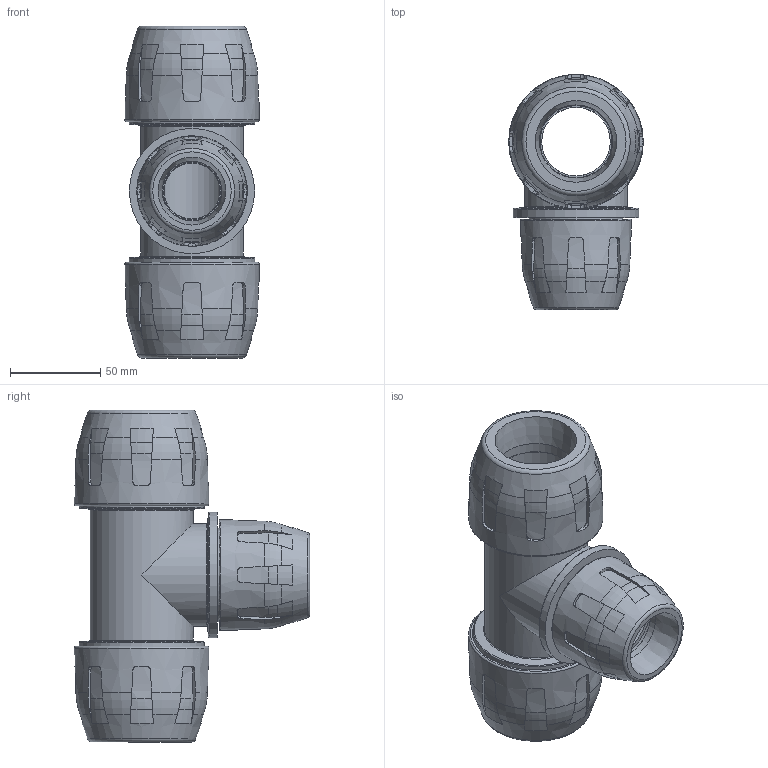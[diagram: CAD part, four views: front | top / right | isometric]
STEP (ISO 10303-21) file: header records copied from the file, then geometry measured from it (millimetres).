
FILE_DESCRIPTION( ( 'STEP AP214' ), '1' );
FILE_NAME( ' ', ' ', ( ' ' ), ( ' ' ), 'PSStep 11.0', 'VISI 17.0', ' ' );
FILE_SCHEMA( ( 'AUTOMOTIVE_DESIGN { 1 0 10303 214 1 1 1 1 }' ) );
Length unit declared in the file: millimetre
Products named in the file (4): 1; 2; 3; 4
Bounding box: 74.56 x 130.32 x 183.92 mm (x, y, z)
Volume: 466628.1 mm3; surface area: 138069.5 mm2
Topology: 4 solids, 4 shells, 625 faces, 1750 edges, 1158 vertices
Faces by surface type: plane 322, cone 141, cylinder 83, bspline 48, torus 31
Full cylindrical faces by diameter (mm): 31 x1, 32.9 x1, 33.44 x1, 38 x1, 40.7 x1, 40.8 x2, 40.9 x2, 47.3 x1, 48.202 x2, 48.693 x1, 50.1 x2, 51.2 x1, 52 x1, 57 x2, 58.6 x1, 59.2 x2, 59.8 x4, 64.1 x2, 65.4 x2, 69.4 x3, 70.4 x2
Entity records: 27121 total; most frequent: CARTESIAN_POINT 7200, ORIENTED_EDGE 3258, DIRECTION 2882, EDGE_CURVE 1629, AXIS2_PLACEMENT_3D 1249, VERTEX_POINT 1125, EDGE_LOOP 748, FACE_OUTER_BOUND 691
